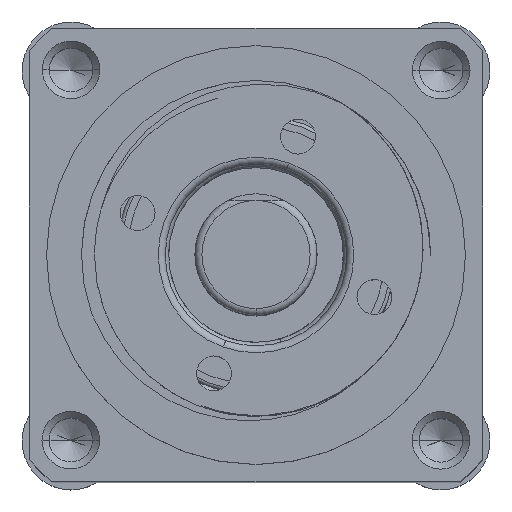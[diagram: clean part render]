
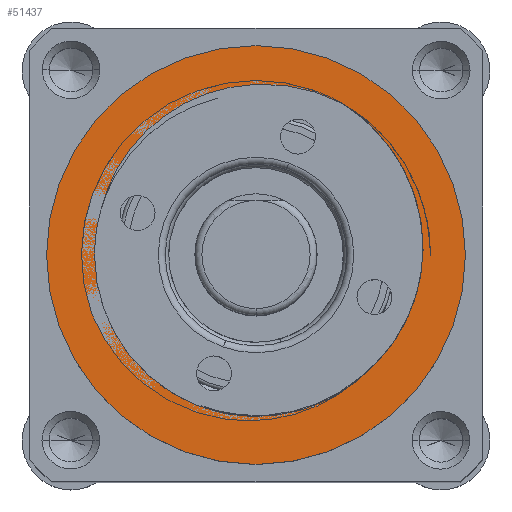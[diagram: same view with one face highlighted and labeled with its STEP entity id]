
A CAD part, top view. The second image highlights one B-rep face of the part: STEP entity #51437.
In plain terms, the highlighted planar face has unit normal (0, 0, 1).
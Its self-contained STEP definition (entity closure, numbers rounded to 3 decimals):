
#153 = CARTESIAN_POINT ( 'NONE',  ( 4.393, -1.725, 13.5 ) ) ;
#359 = CARTESIAN_POINT ( 'NONE',  ( 4.124, 2.657, 13.5 ) ) ;
#2737 = CARTESIAN_POINT ( 'NONE',  ( -3.224, 3.491, 13.5 ) ) ;
#3069 = ORIENTED_EDGE ( 'NONE', *, *, #56403, .F. ) ;
#3247 = EDGE_CURVE ( 'NONE', #15520, #55971, #36817, .T. ) ;
#4679 = CARTESIAN_POINT ( 'NONE',  ( 4.627, -1.039, 13.5 ) ) ;
#4851 = CARTESIAN_POINT ( 'NONE',  ( 3.602, 3.4, 13.5 ) ) ;
#5893 = CARTESIAN_POINT ( 'NONE',  ( 0., 0., 13.5 ) ) ;
#7212 = CARTESIAN_POINT ( 'NONE',  ( -3.899, 2.632, 13.5 ) ) ;
#7723 = DIRECTION ( 'NONE',  ( 0., 0., 1. ) ) ;
#8178 = CARTESIAN_POINT ( 'NONE',  ( -4.625, 0., 13.5 ) ) ;
#9109 = CARTESIAN_POINT ( 'NONE',  ( -6., 0., 13.5 ) ) ;
#9157 = CARTESIAN_POINT ( 'NONE',  ( 4.739, -0.503, 13.5 ) ) ;
#9360 = CARTESIAN_POINT ( 'NONE',  ( 2.795, 4.143, 13.5 ) ) ;
#9684 = DIRECTION ( 'NONE',  ( 0., 0., 1. ) ) ;
#10426 = DIRECTION ( 'NONE',  ( 1., 0., 0. ) ) ;
#11575 = CARTESIAN_POINT ( 'NONE',  ( 1.122, 4.823, 13.5 ) ) ;
#11768 = CARTESIAN_POINT ( 'NONE',  ( -4.357, 1.641, 13.5 ) ) ;
#11809 = B_SPLINE_CURVE_WITH_KNOTS ( 'NONE', 3,
 ( #53683, #45006, #54076, #27094, #153, #31567, #4679, #36135, #9157, #40659, #13735, #45208, #18217, #49759, #22748, #54273, #27272, #359, #31754, #4851, #36321, #9360, #40847 ),
 .UNSPECIFIED., .F., .F.,
 ( 4, 2, 2, 2, 2, 2, 2, 1, 2, 2, 2, 4 ),
 ( 0.006, 0.007, 0.008, 0.009, 0.009, 0.01, 0.011, 0.011, 0.012, 0.012, 0.014, 0.015 ),
 .UNSPECIFIED. ) ;
#13735 = CARTESIAN_POINT ( 'NONE',  ( 4.797, 0.406, 13.5 ) ) ;
#15520 = VERTEX_POINT ( 'NONE', #9109 ) ;
#15926 = CARTESIAN_POINT ( 'NONE',  ( 2.484, 4.339, 13.5 ) ) ;
#16112 = CARTESIAN_POINT ( 'NONE',  ( 0.033, 4.906, 13.5 ) ) ;
#16989 = ORIENTED_EDGE ( 'NONE', *, *, #43884, .F. ) ;
#18217 = CARTESIAN_POINT ( 'NONE',  ( 4.701, 1.13, 13.5 ) ) ;
#20427 = AXIS2_PLACEMENT_3D ( 'NONE', #5893, #37378, #10426 ) ;
#20629 = CARTESIAN_POINT ( 'NONE',  ( -1.048, 4.747, 13.5 ) ) ;
#22748 = CARTESIAN_POINT ( 'NONE',  ( 4.515, 1.834, 13.5 ) ) ;
#23633 = DIRECTION ( 'NONE',  ( 0., 0., 1. ) ) ;
#24030 = EDGE_CURVE ( 'NONE', #32869, #25744, #38460, .T. ) ;
#24796 = AXIS2_PLACEMENT_3D ( 'NONE', #36633, #9684, #41185 ) ;
#25154 = CARTESIAN_POINT ( 'NONE',  ( -2.057, 4.352, 13.5 ) ) ;
#25744 = VERTEX_POINT ( 'NONE', #43474 ) ;
#26154 = VERTEX_POINT ( 'NONE', #8178 ) ;
#26194 = DIRECTION ( 'NONE',  ( 0., 0., 1. ) ) ;
#27094 = CARTESIAN_POINT ( 'NONE',  ( 4.229, -2.058, 13.5 ) ) ;
#27272 = CARTESIAN_POINT ( 'NONE',  ( 4.214, 2.496, 13.5 ) ) ;
#28904 = AXIS2_PLACEMENT_3D ( 'NONE', #34693, #7723, #39259 ) ;
#29645 = CARTESIAN_POINT ( 'NONE',  ( -2.958, 3.737, 13.5 ) ) ;
#31272 = CARTESIAN_POINT ( 'NONE',  ( 6., 0., 13.5 ) ) ;
#31567 = CARTESIAN_POINT ( 'NONE',  ( 4.576, -1.213, 13.5 ) ) ;
#31754 = CARTESIAN_POINT ( 'NONE',  ( 3.83, 3.119, 13.5 ) ) ;
#32234 = CIRCLE ( 'NONE', #24796, 4.625 ) ;
#32737 = CARTESIAN_POINT ( 'NONE',  ( 2.484, 4.339, 13.5 ) ) ;
#32802 = ORIENTED_EDGE ( 'NONE', *, *, #49886, .F. ) ;
#32869 = VERTEX_POINT ( 'NONE', #32737 ) ;
#34179 = CARTESIAN_POINT ( 'NONE',  ( -3.699, 2.933, 13.5 ) ) ;
#34693 = CARTESIAN_POINT ( 'NONE',  ( 0., 0., 13.5 ) ) ;
#36033 = FACE_BOUND ( 'NONE', #51301, .T. ) ;
#36135 = CARTESIAN_POINT ( 'NONE',  ( 4.708, -0.684, 13.5 ) ) ;
#36321 = CARTESIAN_POINT ( 'NONE',  ( 3.084, 3.913, 13.5 ) ) ;
#36633 = CARTESIAN_POINT ( 'NONE',  ( 0., 0., 13.5 ) ) ;
#36792 = PLANE ( 'NONE',  #57101 ) ;
#36817 = CIRCLE ( 'NONE', #20427, 6. ) ;
#37378 = DIRECTION ( 'NONE',  ( 0., 0., 1. ) ) ;
#38460 = B_SPLINE_CURVE_WITH_KNOTS ( 'NONE', 3,
 ( #15926, #47433, #38543, #11575, #43053, #16112, #47625, #20629, #52143, #25154, #56697, #29645, #2737, #34179, #7212, #38737, #11768, #43257 ),
 .UNSPECIFIED., .F., .F.,
 ( 4, 2, 2, 2, 2, 2, 2, 2, 4 ),
 ( 0., 0.001, 0.002, 0.003, 0.004, 0.005, 0.007, 0.008, 0.009 ),
 .UNSPECIFIED. ) ;
#38543 = CARTESIAN_POINT ( 'NONE',  ( 1.821, 4.638, 13.5 ) ) ;
#38737 = CARTESIAN_POINT ( 'NONE',  ( -4.228, 1.988, 13.5 ) ) ;
#39259 = DIRECTION ( 'NONE',  ( 1., 0., 0. ) ) ;
#40070 = ORIENTED_EDGE ( 'NONE', *, *, #56647, .T. ) ;
#40659 = CARTESIAN_POINT ( 'NONE',  ( 4.799, 0.043, 13.5 ) ) ;
#40847 = CARTESIAN_POINT ( 'NONE',  ( 2.484, 4.339, 13.5 ) ) ;
#41185 = DIRECTION ( 'NONE',  ( 1., 0., 0. ) ) ;
#41515 = CARTESIAN_POINT ( 'NONE',  ( 0., 0., 13.5 ) ) ;
#41734 = ORIENTED_EDGE ( 'NONE', *, *, #3247, .T. ) ;
#42486 = CIRCLE ( 'NONE', #43417, 4.625 ) ;
#43053 = CARTESIAN_POINT ( 'NONE',  ( 0.756, 4.878, 13.5 ) ) ;
#43257 = CARTESIAN_POINT ( 'NONE',  ( -4.442, 1.29, 13.5 ) ) ;
#43417 = AXIS2_PLACEMENT_3D ( 'NONE', #53206, #26194, #57767 ) ;
#43474 = CARTESIAN_POINT ( 'NONE',  ( -4.442, 1.29, 13.5 ) ) ;
#43884 = EDGE_CURVE ( 'NONE', #25744, #26154, #32234, .T. ) ;
#45006 = CARTESIAN_POINT ( 'NONE',  ( 3.602, -2.949, 13.5 ) ) ;
#45208 = CARTESIAN_POINT ( 'NONE',  ( 4.733, 0.948, 13.5 ) ) ;
#47433 = CARTESIAN_POINT ( 'NONE',  ( 2.159, 4.508, 13.5 ) ) ;
#47625 = CARTESIAN_POINT ( 'NONE',  ( -0.328, 4.881, 13.5 ) ) ;
#48040 = FACE_OUTER_BOUND ( 'NONE', #56586, .T. ) ;
#48555 = CIRCLE ( 'NONE', #28904, 6. ) ;
#49759 = CARTESIAN_POINT ( 'NONE',  ( 4.618, 1.486, 13.5 ) ) ;
#49886 = EDGE_CURVE ( 'NONE', #26154, #56614, #42486, .T. ) ;
#51301 = EDGE_LOOP ( 'NONE', ( #3069, #32802, #16989, #58451 ) ) ;
#51437 = ADVANCED_FACE ( 'NONE', ( #36033, #48040 ), #36792, .T. ) ;
#52143 = CARTESIAN_POINT ( 'NONE',  ( -1.394, 4.641, 13.5 ) ) ;
#53206 = CARTESIAN_POINT ( 'NONE',  ( 0., 0., 13.5 ) ) ;
#53683 = CARTESIAN_POINT ( 'NONE',  ( 3.337, -3.203, 13.5 ) ) ;
#54076 = CARTESIAN_POINT ( 'NONE',  ( 3.834, -2.668, 13.5 ) ) ;
#54273 = CARTESIAN_POINT ( 'NONE',  ( 4.374, 2.169, 13.5 ) ) ;
#55135 = DIRECTION ( 'NONE',  ( 1., 0., 0. ) ) ;
#55971 = VERTEX_POINT ( 'NONE', #31272 ) ;
#56403 = EDGE_CURVE ( 'NONE', #56614, #32869, #11809, .T. ) ;
#56586 = EDGE_LOOP ( 'NONE', ( #41734, #40070 ) ) ;
#56614 = VERTEX_POINT ( 'NONE', #56626 ) ;
#56626 = CARTESIAN_POINT ( 'NONE',  ( 3.337, -3.203, 13.5 ) ) ;
#56647 = EDGE_CURVE ( 'NONE', #55971, #15520, #48555, .T. ) ;
#56697 = CARTESIAN_POINT ( 'NONE',  ( -2.377, 4.167, 13.5 ) ) ;
#57101 = AXIS2_PLACEMENT_3D ( 'NONE', #41515, #23633, #55135 ) ;
#57767 = DIRECTION ( 'NONE',  ( 1., 0., 0. ) ) ;
#58451 = ORIENTED_EDGE ( 'NONE', *, *, #24030, .F. ) ;
